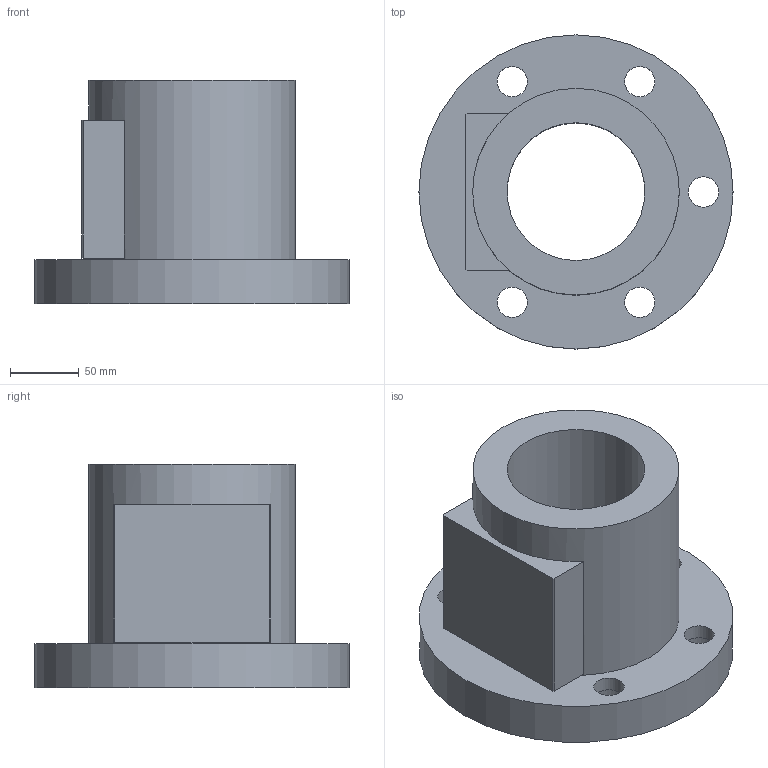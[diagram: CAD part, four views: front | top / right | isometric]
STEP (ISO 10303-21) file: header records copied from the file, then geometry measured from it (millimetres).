
FILE_DESCRIPTION(/* description */ (''),/* implementation_level */ '2;1');
FILE_NAME(/* name */ '100-16B2',/* time_stamp */ '2006-07-31T12:04:53+08:00',/* author */ (''),/* organization */ (''),/* preprocessor_version */ 'ST-DEVELOPER v9',/* originating_system */ 'UGS - NX 4.0',/* authorisation */ '');
FILE_SCHEMA (('CONFIG_CONTROL_DESIGN'));
Length unit declared in the file: millimetre
Products named in the file (1): 100-16B2
Bounding box: 228 x 228 x 162 mm (x, y, z)
Volume: 2373470.1 mm3; surface area: 219271.8 mm2
Topology: 1 solids, 1 shells, 30 faces, 67 edges, 46 vertices
Faces by surface type: plane 17, cylinder 13
Full cylindrical faces by diameter (mm): 22 x5, 32 x5, 100 x1, 150 x1, 228 x1
Entity records: 860 total; most frequent: DIRECTION 140, CARTESIAN_POINT 123, ORIENTED_EDGE 100, EDGE_LOOP 62, AXIS2_PLACEMENT_3D 59, EDGE_CURVE 50, FACE_BOUND 45, VERTEX_POINT 42
